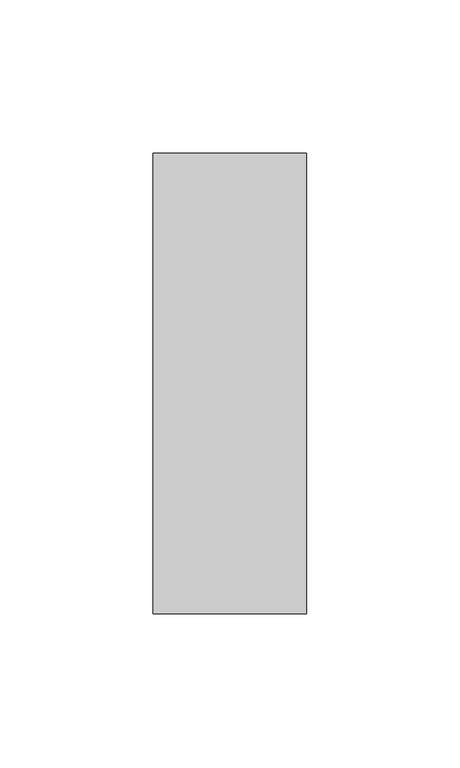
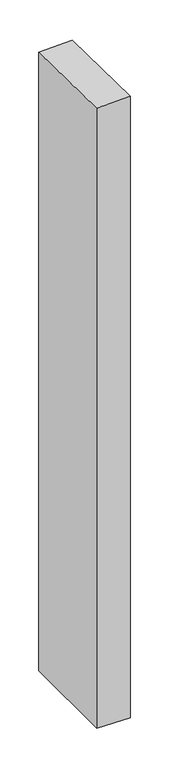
"""IFC4 building model written with IfcOpenShell, lengths in millimetres: member geometry, Прямоугольный импост : 50 x 150 мм."""

import ifcopenshell
import ifcopenshell.guid

model = None  # the IFC model being written
_history = None  # IfcOwnerHistory: only IFC2X3 demands one
_inside = {}  # id of a spatial element -> (the spatial element, [elements in it])
_under = {}  # id of a project, library or spatial element -> (it, [spatial elements below it])
_declared = {}  # id of a project -> (the project, [libraries it declares])
_typed = {}  # id of a type object -> (the type object, [elements of that type])
_made_of = {}  # id of a material, layer set ... -> (it, [elements and type objects made of it])


def new_model(schema):
    """Start an empty IFC model of exactly this schema.

    Asked for "IFC4X3", IfcOpenShell would pick the latest addendum, in which some entities
    have other attributes; the version numbers below select the first issue.
    IFC2X3 requires an IfcOwnerHistory on every rooted entity: one is made here for all.
    """
    global model, _history
    if schema == "IFC4X3":
        model = ifcopenshell.file(schema_version=(4, 3, 0, 0))
    else:
        model = ifcopenshell.file(schema=schema)
    _inside.clear()
    _under.clear()
    _declared.clear()
    _typed.clear()
    _made_of.clear()
    _history = None
    if model.schema == "IFC2X3":
        org = make("IfcOrganization", Name="unknown")
        user = make(
            "IfcPersonAndOrganization",
            ThePerson=make("IfcPerson", FamilyName="unknown"),
            TheOrganization=org,
        )
        app = make(
            "IfcApplication",
            ApplicationDeveloper=org,
            Version="unknown",
            ApplicationFullName="unknown",
            ApplicationIdentifier="unknown",
        )
        _history = make(
            "IfcOwnerHistory",
            OwningUser=user,
            OwningApplication=app,
            ChangeAction="ADDED",
            CreationDate=0,
        )
    return model


def make(cls, **values):
    """One entity of the class cls with the attributes given. An attribute that is None is left unset."""
    return model.create_entity(
        cls, **{name: value for name, value in values.items() if value is not None}
    )


def rooted(cls, **values):
    """An entity with a GlobalId (a new one), such as an element, a storey or a relation."""
    return make(cls, GlobalId=ifcopenshell.guid.new(), OwnerHistory=_history, **values)


def si_unit(unit_type, name, prefix=None):
    """IfcSIUnit, for example si_unit("LENGTHUNIT", "METRE", prefix="MILLI")."""
    return make("IfcSIUnit", UnitType=unit_type, Prefix=prefix, Name=name)


def assignment(units):
    """IfcUnitAssignment: the units of a project."""
    return None if units is None else make("IfcUnitAssignment", Units=units)


def point(xyz):
    """IfcCartesianPoint."""
    return None if xyz is None else make("IfcCartesianPoint", Coordinates=xyz)


def direction(xyz):
    """IfcDirection."""
    return None if xyz is None else make("IfcDirection", DirectionRatios=xyz)


def frame(location, z_axis=None, x_axis=None):
    """IfcAxis2Placement3D, a coordinate frame: its origin and axes. An axis left out is left unset."""
    return make(
        "IfcAxis2Placement3D",
        Location=point(location),
        Axis=direction(z_axis),
        RefDirection=direction(x_axis),
    )


def origin():
    """The frame at (0, 0, 0) with its axes left unset."""
    return frame((0.0, 0.0, 0.0))


def place(relative_to, where):
    """IfcLocalPlacement: puts the frame where relative to a parent placement (None: the world)."""
    return make(
        "IfcLocalPlacement", PlacementRelTo=relative_to, RelativePlacement=where
    )


def context(
    kind, dimensions, precision=None, world=None, true_north=None, identifier=None
):
    """IfcGeometricRepresentationContext, for example the 3D "Model" context."""
    return make(
        "IfcGeometricRepresentationContext",
        ContextIdentifier=identifier,
        ContextType=kind,
        CoordinateSpaceDimension=dimensions,
        Precision=precision,
        WorldCoordinateSystem=world,
        TrueNorth=true_north,
    )


def project(units=None, contexts=None):
    """IfcProject with its units and contexts."""
    return rooted(
        "IfcProject",
        Name="project",
        RepresentationContexts=contexts,
        UnitsInContext=assignment(units),
    )


def spatial(cls, under=None, at=None, **own):
    """A site, building, storey or space (cls), placed at a placement, below another one or the project."""
    s = rooted(cls, ObjectPlacement=at, **own)
    if under is not None:
        _under.setdefault(under.id(), (under, []))[1].append(s)
    return s


def faces_of(points, faces, orient=None, outer=None):
    """IfcFace entities. A face is a list of loops; a loop is a list of indices into points, from 0.

    orient and outer hold one flag for each loop. By default every Orientation is true, the
    first loop of a face is its IfcFaceOuterBound and the others are IfcFaceBound.
    """
    made = []
    for i, loops in enumerate(faces):
        bounds = []
        for j, loop in enumerate(loops):
            is_outer = j == 0 if outer is None else outer[i][j]
            bounds.append(
                make(
                    "IfcFaceOuterBound" if is_outer else "IfcFaceBound",
                    Bound=make("IfcPolyLoop", Polygon=[points[k] for k in loop]),
                    Orientation=True if orient is None else orient[i][j],
                )
            )
        made.append(make("IfcFace", Bounds=bounds))
    return made


def faceted_brep(points, faces, orient=None, outer=None, voids=None):
    """IfcFacetedBrep: a solid bounded by flat faces; with voids (closed shells), ...WithVoids."""
    shared = [point(p) for p in points]
    hull = make("IfcClosedShell", CfsFaces=faces_of(shared, faces, orient, outer))
    if voids is None:
        return make("IfcFacetedBrep", Outer=hull)
    return make(
        "IfcFacetedBrepWithVoids",
        Outer=hull,
        Voids=[
            make(cls, CfsFaces=faces_of(shared, fs, o, b)) for cls, fs, o, b in voids
        ],
    )


def shape(context_of_items, identifier, shape_type, items):
    """IfcShapeRepresentation: the items that make up one representation, for example the "Body"."""
    return make(
        "IfcShapeRepresentation",
        ContextOfItems=context_of_items,
        RepresentationIdentifier=identifier,
        RepresentationType=shape_type,
        Items=items,
    )


def source(mapping_origin, context_of_items, identifier, shape_type, items):
    """IfcRepresentationMap: a shape defined once, which mapped items show again and again."""
    return make(
        "IfcRepresentationMap",
        MappingOrigin=mapping_origin,
        MappedRepresentation=shape(context_of_items, identifier, shape_type, items),
    )


def transform(
    local_origin,
    x_axis=None,
    y_axis=None,
    z_axis=None,
    scale=None,
    scale2=None,
    scale3=None,
    uniform=True,
):
    """IfcCartesianTransformationOperator3D, or its non-uniform kind. x_axis, y_axis, z_axis: its Axis1, 2, 3."""
    if uniform:
        return make(
            "IfcCartesianTransformationOperator3D",
            Axis1=direction(x_axis),
            Axis2=direction(y_axis),
            LocalOrigin=point(local_origin),
            Scale=scale,
            Axis3=direction(z_axis),
        )
    return make(
        "IfcCartesianTransformationOperator3DnonUniform",
        Axis1=direction(x_axis),
        Axis2=direction(y_axis),
        LocalOrigin=point(local_origin),
        Scale=scale,
        Axis3=direction(z_axis),
        Scale2=scale2,
        Scale3=scale3,
    )


def mapped(mapping_source, mapping_target):
    """IfcMappedItem: shows the shape of a source again, moved by a transform."""
    return make(
        "IfcMappedItem", MappingSource=mapping_source, MappingTarget=mapping_target
    )


def made_of(thing, what):
    """Note that an element or type object is made of a material, layer set ...; save() writes the relation."""
    if what is not None:
        _made_of.setdefault(what.id(), (what, []))[1].append(thing)
    return thing


def element(
    cls,
    number,
    at=None,
    inside=None,
    cuts=None,
    type_object=None,
    material=None,
    context=None,
    identifier="Body",
    shape_type=None,
    held_by="IfcProductDefinitionShape",
    body=None,
    shapes=None,
    **own,
):
    """One element of the class cls, such as IfcWall. Its Tag is "e" and its number.

    at: its placement. inside: the storey or other place that contains it. cuts: it is an
    opening in that element (IfcRelVoidsElement). A single representation is given by context,
    identifier, shape_type and body (its items); several are given by shapes. held_by: the class
    of the entity that holds the representations. save() writes the other relations.
    """
    e = rooted(cls, Tag="e%d" % number, ObjectPlacement=at, **own)
    if body is not None:
        shapes = [shape(context, identifier, shape_type, body)]
    if shapes is not None:
        e.Representation = make(held_by, Representations=shapes)
    if inside is not None:
        _inside.setdefault(inside.id(), (inside, []))[1].append(e)
    if cuts is not None:
        rooted(
            "IfcRelVoidsElement", RelatingBuildingElement=cuts, RelatedOpeningElement=e
        )
    if type_object is not None:
        _typed.setdefault(type_object.id(), (type_object, []))[1].append(e)
    return made_of(e, material)


def aggregate(whole, parts):
    """IfcRelAggregates: a whole, such as a stair, and the parts it consists of."""
    return rooted("IfcRelAggregates", RelatingObject=whole, RelatedObjects=parts)


def save(model, path):
    """Write the relations noted so far, then the file.

    IfcRelAggregates (storeys below a building ...), IfcRelContainedInSpatialStructure (elements
    in a storey), IfcRelDefinesByType, IfcRelAssociatesMaterial and IfcRelDeclares: one each for
    every whole, place, type object, material and project.
    """
    for whole, parts in _under.values():
        aggregate(whole, parts)
    for where, things in _inside.values():
        rooted(
            "IfcRelContainedInSpatialStructure",
            RelatedElements=things,
            RelatingStructure=where,
        )
    for kind, things in _typed.values():
        rooted("IfcRelDefinesByType", RelatedObjects=things, RelatingType=kind)
    for what, things in _made_of.values():
        rooted("IfcRelAssociatesMaterial", RelatedObjects=things, RelatingMaterial=what)
    for by, libraries in _declared.values():
        rooted("IfcRelDeclares", RelatingContext=by, RelatedDefinitions=libraries)
    model.write(path)


def member_ae5ee90e(model_context):
    return source(origin(), model_context, "Body", "Brep", [
        faceted_brep([(-25.0, 75.0, -1.9282777), (25.0, 75.0, -0.8858622), (25.0, 75.0, -979.8150202), (-25.0, 75.0, -978.6892027), (-25.0, -75.0, 0.8858622), (-25.0, -75.0, -977.980005), (25.0, -75.0, 1.9282777), (25.0, -75.0, -979.1058225)], [[[0, 1, 2, 3]], [[4, 0, 3, 5]], [[6, 4, 5, 7]], [[1, 6, 7, 2]], [[1, 0, 4, 6]], [[2, 7, 5, 3]]]),
    ])


if __name__ == "__main__":
    model = new_model("IFC4")
    model_context = context("Model", 3, world=origin())
    ifc_project = project(units=[si_unit("LENGTHUNIT", "METRE", prefix="MILLI")], contexts=[model_context])
    site = spatial("IfcSite", under=ifc_project)
    building = spatial("IfcBuilding", under=site)
    placement = place(None, origin())
    member_shape = member_ae5ee90e(model_context)
    element("IfcMember", 1, ObjectType="Прямоугольный импост : 50 x 150 мм", at=placement, inside=building, context=model_context, shape_type="MappedRepresentation", body=[
        mapped(member_shape, transform((0.0, 0.0, 0.0), x_axis=(1.0, 0.0, 0.0), y_axis=(0.0, 1.0, 0.0), z_axis=(0.0, 0.0, 1.0))),
    ])
    save(model, "model.ifc")
